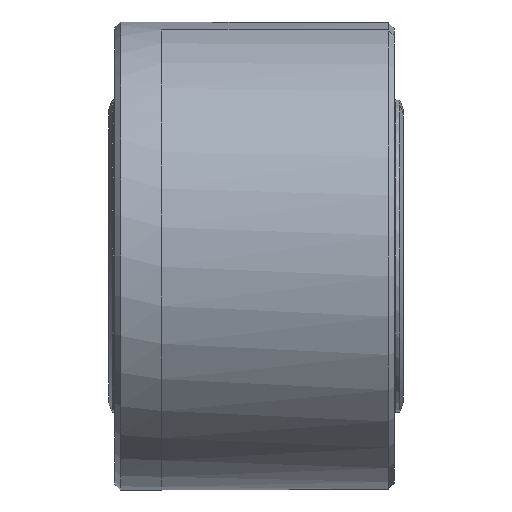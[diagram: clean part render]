
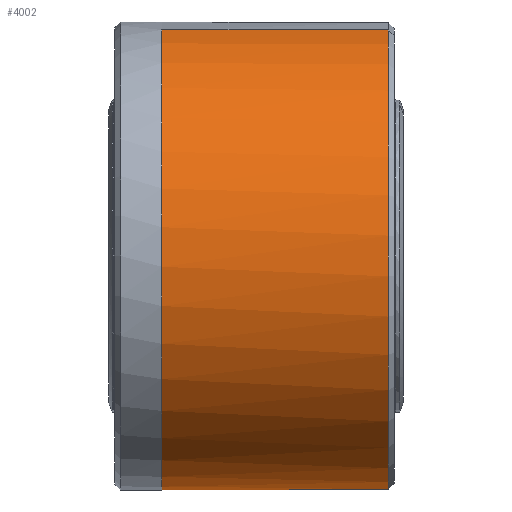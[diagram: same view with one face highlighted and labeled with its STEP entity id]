
A CAD part, left-side view. The second image highlights one B-rep face of the part: STEP entity #4002.
In plain terms, the highlighted free-form (B-spline) face has degree [12, 1] with [13, 2] control points.
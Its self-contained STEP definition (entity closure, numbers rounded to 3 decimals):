
#168=DIRECTION('',(0.,1.,0.));
#169=VECTOR('',#168,14.);
#170=CARTESIAN_POINT('',(0.,32.,79.5));
#171=LINE('',#170,#169);
#172=DIRECTION('',(0.,-1.,0.));
#173=VECTOR('',#172,77.);
#174=CARTESIAN_POINT('',(20.576,32.,-76.791));
#175=LINE('',#174,#173);
#181=DIRECTION('',(0.,-1.,0.));
#182=VECTOR('',#181,77.);
#183=CARTESIAN_POINT('',(-20.576,32.,76.791));
#184=LINE('',#183,#182);
#185=CARTESIAN_POINT('',(0.,32.,0.));
#186=DIRECTION('',(0.,1.,0.));
#187=DIRECTION('',(0.,0.,-1.));
#188=AXIS2_PLACEMENT_3D('',#185,#186,#187);
#190=DIRECTION('',(0.,1.,0.));
#191=VECTOR('',#190,14.);
#192=CARTESIAN_POINT('',(0.,32.,-79.5));
#193=LINE('',#192,#191);
#194=CARTESIAN_POINT('',(0.,-45.,0.));
#195=DIRECTION('',(0.,1.,0.));
#196=DIRECTION('',(0.259,0.,-0.966));
#197=AXIS2_PLACEMENT_3D('',#194,#195,#196);
#199=CARTESIAN_POINT('',(0.,32.,0.));
#200=DIRECTION('',(0.,1.,0.));
#201=DIRECTION('',(0.,0.,1.));
#202=AXIS2_PLACEMENT_3D('',#199,#200,#201);
#677=CARTESIAN_POINT('',(0.,46.,0.));
#678=DIRECTION('',(0.,-1.,0.));
#679=DIRECTION('',(0.,0.,-1.));
#680=AXIS2_PLACEMENT_3D('',#677,#678,#679);
#2888=CARTESIAN_POINT('',(0.,46.,-79.5));
#2889=CARTESIAN_POINT('',(0.,46.,79.5));
#2890=VERTEX_POINT('',#2888);
#2891=VERTEX_POINT('',#2889);
#3104=CARTESIAN_POINT('',(20.576,-45.,-76.791));
#3105=CARTESIAN_POINT('',(-20.576,-45.,76.791));
#3106=VERTEX_POINT('',#3104);
#3107=VERTEX_POINT('',#3105);
#3112=CARTESIAN_POINT('',(0.,32.,-79.5));
#3113=CARTESIAN_POINT('',(-20.576,32.,76.791));
#3114=VERTEX_POINT('',#3112);
#3115=VERTEX_POINT('',#3113);
#3116=CARTESIAN_POINT('',(0.,32.,79.5));
#3117=CARTESIAN_POINT('',(20.576,32.,-76.791));
#3118=VERTEX_POINT('',#3116);
#3119=VERTEX_POINT('',#3117);
#3963=CARTESIAN_POINT('',(-11.202,47.82,78.707));
#3964=CARTESIAN_POINT('',(-11.202,-46.82,78.707));
#3965=CARTESIAN_POINT('',(-52.275,47.82,72.861));
#3966=CARTESIAN_POINT('',(-52.275,-46.82,72.861));
#3967=CARTESIAN_POINT('',(-90.021,47.82,43.633));
#3968=CARTESIAN_POINT('',(-90.021,-46.82,43.633));
#3969=CARTESIAN_POINT('',(-109.799,47.82,-6.894));
#3970=CARTESIAN_POINT('',(-109.799,-46.82,-6.894));
#3971=CARTESIAN_POINT('',(-98.387,47.82,-66.45));
#3972=CARTESIAN_POINT('',(-98.387,-46.82,-66.45));
#3973=CARTESIAN_POINT('',(-52.147,47.82,-113.692));
#3974=CARTESIAN_POINT('',(-52.147,-46.82,-113.692));
#3975=CARTESIAN_POINT('',(16.67,47.82,-126.583));
#3976=CARTESIAN_POINT('',(16.67,-46.82,
-126.583));
#3977=CARTESIAN_POINT('',(79.789,47.82,-96.322));
#3978=CARTESIAN_POINT('',(79.789,-46.82,
-96.322));
#3979=CARTESIAN_POINT('',(112.235,47.82,-38.722));
#3980=CARTESIAN_POINT('',(112.235,-46.82,-38.722));
#3981=CARTESIAN_POINT('',(107.842,47.82,21.759));
#3982=CARTESIAN_POINT('',(107.842,-46.82,21.759));
#3983=CARTESIAN_POINT('',(75.66,47.82,65.445));
#3984=CARTESIAN_POINT('',(75.66,-46.82,65.445));
#3985=CARTESIAN_POINT('',(31.636,47.82,83.908));
#3986=CARTESIAN_POINT('',(31.636,-46.82,83.908));
#3987=CARTESIAN_POINT('',(-9.551,47.82,78.924));
#3988=CARTESIAN_POINT('',(-9.551,-46.82,78.924));
#3989=B_SPLINE_SURFACE_WITH_KNOTS('',12,1,((#3963,#3964),(#3965,#3966),(#3967,
#3968),(#3969,#3970),(#3971,#3972),(#3973,#3974),(#3975,#3976),(#3977,#3978),(
#3979,#3980),(#3981,#3982),(#3983,#3984),(#3985,#3986),(#3987,#3988)),
.UNSPECIFIED.,.F.,.F.,.F.,(13,13),(2,2),(-6.142,0.12),(
7.18,101.82),.UNSPECIFIED.);
#3990=ORIENTED_EDGE('',*,*,#3939,.F.);
#3991=ORIENTED_EDGE('',*,*,#3937,.T.);
#3992=ORIENTED_EDGE('',*,*,#3935,.T.);
#3994=ORIENTED_EDGE('',*,*,#3993,.F.);
#3995=ORIENTED_EDGE('',*,*,#3931,.F.);
#3996=ORIENTED_EDGE('',*,*,#3929,.F.);
#3997=ORIENTED_EDGE('',*,*,#3927,.T.);
#3999=ORIENTED_EDGE('',*,*,#3998,.F.);
#4000=EDGE_LOOP('',(#3990,#3991,#3992,#3994,#3995,#3996,#3997,#3999));
#4001=FACE_OUTER_BOUND('',#4000,.F.);
#4002=ADVANCED_FACE('',(#4001),#3989,.T.);
#189=CIRCLE('',#188,79.5);
#198=CIRCLE('',#197,79.5);
#203=CIRCLE('',#202,79.5);
#681=CIRCLE('',#680,79.5);
#3927=EDGE_CURVE('',#3118,#2891,#171,.T.);
#3929=EDGE_CURVE('',#3118,#3119,#203,.T.);
#3931=EDGE_CURVE('',#3119,#3106,#175,.T.);
#3935=EDGE_CURVE('',#3115,#3107,#184,.T.);
#3937=EDGE_CURVE('',#3114,#3115,#189,.T.);
#3939=EDGE_CURVE('',#3114,#2890,#193,.T.);
#3993=EDGE_CURVE('',#3106,#3107,#198,.T.);
#3998=EDGE_CURVE('',#2890,#2891,#681,.T.);
